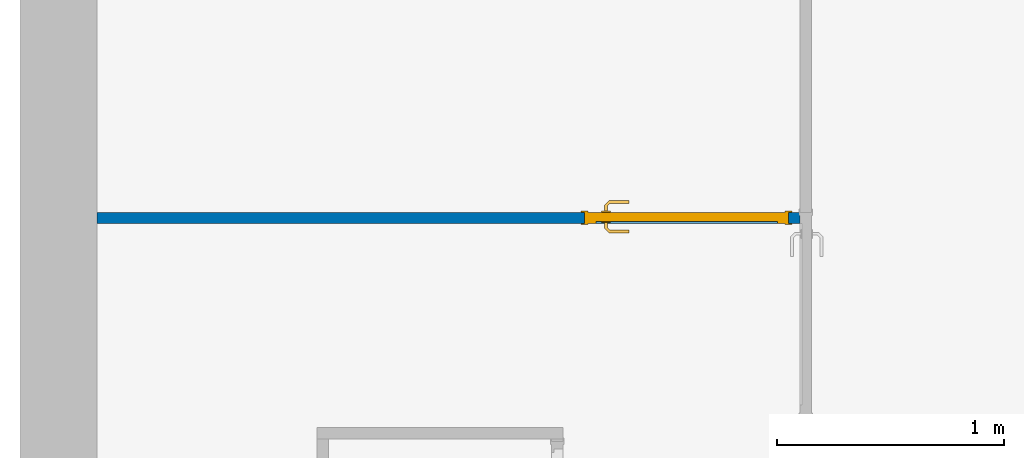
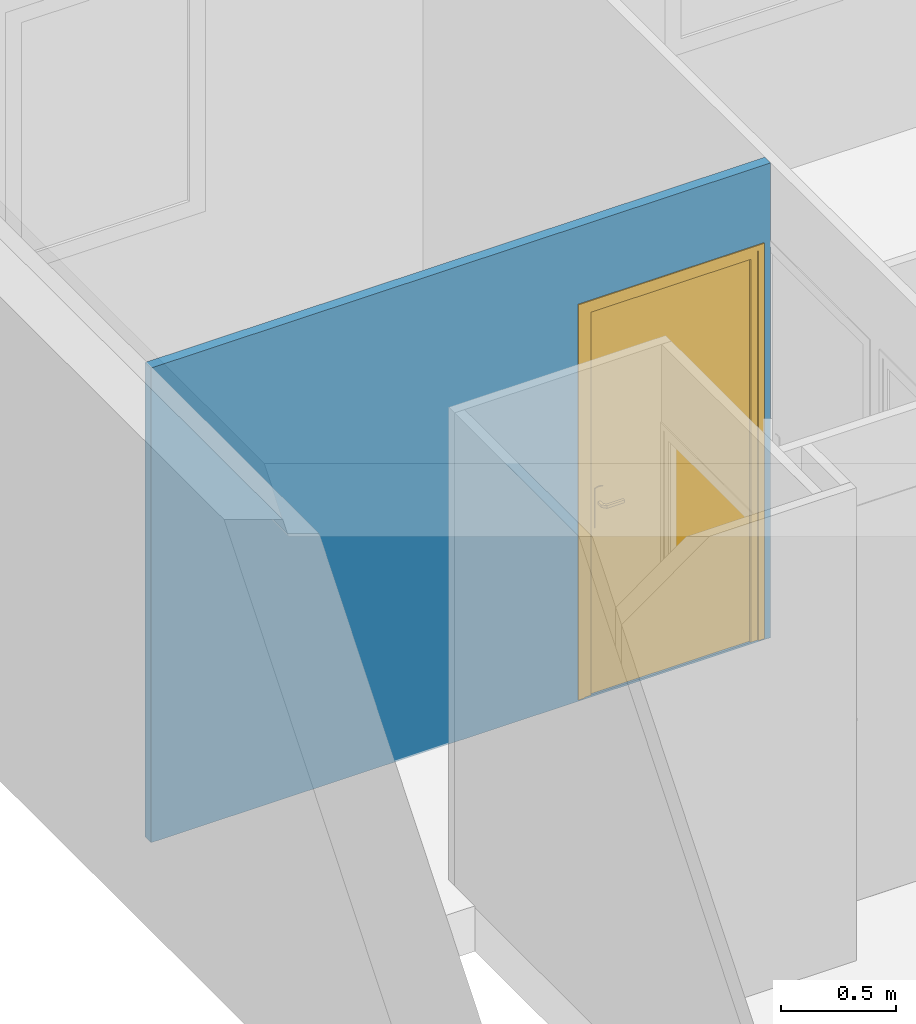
# One storey, part 4 of 13: 1 door, 1 wall, 1 opening.
"""IFC2X3 building model written with IfcOpenShell, lengths in metres."""

import ifcopenshell
import ifcopenshell.guid

model = None  # the IFC model being written
_history = None  # IfcOwnerHistory: only IFC2X3 demands one
_inside = {}  # id of a spatial element -> (the spatial element, [elements in it])
_under = {}  # id of a project, library or spatial element -> (it, [spatial elements below it])
_declared = {}  # id of a project -> (the project, [libraries it declares])
_typed = {}  # id of a type object -> (the type object, [elements of that type])
_made_of = {}  # id of a material, layer set ... -> (it, [elements and type objects made of it])


def new_model(schema):
    """Start an empty IFC model of exactly this schema.

    Asked for "IFC4X3", IfcOpenShell would pick the latest addendum, in which some entities
    have other attributes; the version numbers below select the first issue.
    IFC2X3 requires an IfcOwnerHistory on every rooted entity: one is made here for all.
    """
    global model, _history
    if schema == "IFC4X3":
        model = ifcopenshell.file(schema_version=(4, 3, 0, 0))
    else:
        model = ifcopenshell.file(schema=schema)
    _inside.clear()
    _under.clear()
    _declared.clear()
    _typed.clear()
    _made_of.clear()
    _history = None
    if model.schema == "IFC2X3":
        org = make("IfcOrganization", Name="unknown")
        user = make(
            "IfcPersonAndOrganization",
            ThePerson=make("IfcPerson", FamilyName="unknown"),
            TheOrganization=org,
        )
        app = make(
            "IfcApplication",
            ApplicationDeveloper=org,
            Version="unknown",
            ApplicationFullName="unknown",
            ApplicationIdentifier="unknown",
        )
        _history = make(
            "IfcOwnerHistory",
            OwningUser=user,
            OwningApplication=app,
            ChangeAction="ADDED",
            CreationDate=0,
        )
    return model


def make(cls, **values):
    """One entity of the class cls with the attributes given. An attribute that is None is left unset."""
    return model.create_entity(
        cls, **{name: value for name, value in values.items() if value is not None}
    )


def entity(cls, *values):
    """Any entity or typed value of the class cls, its attributes in the order of the schema. None: left unset."""
    e = model.create_entity(cls)
    for i, value in enumerate(values):
        if value is not None:
            e[i] = value
    return e


def rooted(cls, **values):
    """An entity with a GlobalId (a new one), such as an element, a storey or a relation."""
    return make(cls, GlobalId=ifcopenshell.guid.new(), OwnerHistory=_history, **values)


def si_unit(unit_type, name, prefix=None):
    """IfcSIUnit, for example si_unit("LENGTHUNIT", "METRE", prefix="MILLI")."""
    return make("IfcSIUnit", UnitType=unit_type, Prefix=prefix, Name=name)


def converted_unit(unit_type, name, factor, base, dimensions=None, offset=None):
    """IfcConversionBasedUnit, such as the inch: factor (a typed value) times the base unit."""
    return make(
        "IfcConversionBasedUnit"
        if offset is None
        else "IfcConversionBasedUnitWithOffset",
        ConversionOffset=offset,
        Dimensions=None
        if dimensions is None
        else entity("IfcDimensionalExponents", *dimensions),
        UnitType=unit_type,
        Name=name,
        ConversionFactor=make(
            "IfcMeasureWithUnit", ValueComponent=factor, UnitComponent=base
        ),
    )


def derived_unit(unit_type, elements):
    """IfcDerivedUnit: a product of units, each with its exponent."""
    return make(
        "IfcDerivedUnit",
        Elements=[
            make("IfcDerivedUnitElement", Unit=unit, Exponent=power)
            for unit, power in elements
        ],
        UnitType=unit_type,
    )


def assignment(units):
    """IfcUnitAssignment: the units of a project."""
    return None if units is None else make("IfcUnitAssignment", Units=units)


def point(xyz):
    """IfcCartesianPoint."""
    return None if xyz is None else make("IfcCartesianPoint", Coordinates=xyz)


def direction(xyz):
    """IfcDirection."""
    return None if xyz is None else make("IfcDirection", DirectionRatios=xyz)


def frame(location, z_axis=None, x_axis=None):
    """IfcAxis2Placement3D, a coordinate frame: its origin and axes. An axis left out is left unset."""
    return make(
        "IfcAxis2Placement3D",
        Location=point(location),
        Axis=direction(z_axis),
        RefDirection=direction(x_axis),
    )


def frame_2d(location, x_axis=None):
    """IfcAxis2Placement2D, a coordinate frame in the plane: its origin and x axis."""
    return make(
        "IfcAxis2Placement2D", Location=point(location), RefDirection=direction(x_axis)
    )


def origin():
    """The frame at (0, 0, 0) with its axes left unset."""
    return frame((0.0, 0.0, 0.0))


def place(relative_to, where):
    """IfcLocalPlacement: puts the frame where relative to a parent placement (None: the world)."""
    return make(
        "IfcLocalPlacement", PlacementRelTo=relative_to, RelativePlacement=where
    )


def context(
    kind, dimensions, precision=None, world=None, true_north=None, identifier=None
):
    """IfcGeometricRepresentationContext, for example the 3D "Model" context."""
    return make(
        "IfcGeometricRepresentationContext",
        ContextIdentifier=identifier,
        ContextType=kind,
        CoordinateSpaceDimension=dimensions,
        Precision=precision,
        WorldCoordinateSystem=world,
        TrueNorth=true_north,
    )


def subcontext(parent, identifier, kind, view, scale=None):
    """IfcGeometricRepresentationSubContext, for example "Body" below "Model"."""
    return make(
        "IfcGeometricRepresentationSubContext",
        ContextIdentifier=identifier,
        ContextType=kind,
        ParentContext=parent,
        TargetScale=scale,
        TargetView=view,
    )


def project(units=None, contexts=None):
    """IfcProject with its units and contexts."""
    return rooted(
        "IfcProject",
        Name="project",
        RepresentationContexts=contexts,
        UnitsInContext=assignment(units),
    )


def spatial(cls, under=None, at=None, **own):
    """A site, building, storey or space (cls), placed at a placement, below another one or the project."""
    s = rooted(cls, ObjectPlacement=at, **own)
    if under is not None:
        _under.setdefault(under.id(), (under, []))[1].append(s)
    return s


def profile(cls, at=None, kind="AREA", **sizes):
    """A parametric profile (cls). Its sizes go by their IFC names, for example OverallWidth=200.0."""
    return make(cls, ProfileType=kind, Position=at, **sizes)


def rectangle(**sizes):
    """IfcRectangleProfileDef."""
    return profile("IfcRectangleProfileDef", **sizes)


def extrude(swept, where, along, depth):
    """IfcExtrudedAreaSolid: the profile swept, set in the frame where, extruded along a direction by depth."""
    return make(
        "IfcExtrudedAreaSolid",
        SweptArea=swept,
        Position=where,
        ExtrudedDirection=direction(along),
        Depth=depth,
    )


def faces_of(points, faces, orient=None, outer=None):
    """IfcFace entities. A face is a list of loops; a loop is a list of indices into points, from 0.

    orient and outer hold one flag for each loop. By default every Orientation is true, the
    first loop of a face is its IfcFaceOuterBound and the others are IfcFaceBound.
    """
    made = []
    for i, loops in enumerate(faces):
        bounds = []
        for j, loop in enumerate(loops):
            is_outer = j == 0 if outer is None else outer[i][j]
            bounds.append(
                make(
                    "IfcFaceOuterBound" if is_outer else "IfcFaceBound",
                    Bound=make("IfcPolyLoop", Polygon=[points[k] for k in loop]),
                    Orientation=True if orient is None else orient[i][j],
                )
            )
        made.append(make("IfcFace", Bounds=bounds))
    return made


def faceted_brep(points, faces, orient=None, outer=None, voids=None):
    """IfcFacetedBrep: a solid bounded by flat faces; with voids (closed shells), ...WithVoids."""
    shared = [point(p) for p in points]
    hull = make("IfcClosedShell", CfsFaces=faces_of(shared, faces, orient, outer))
    if voids is None:
        return make("IfcFacetedBrep", Outer=hull)
    return make(
        "IfcFacetedBrepWithVoids",
        Outer=hull,
        Voids=[
            make(cls, CfsFaces=faces_of(shared, fs, o, b)) for cls, fs, o, b in voids
        ],
    )


def shape(context_of_items, identifier, shape_type, items):
    """IfcShapeRepresentation: the items that make up one representation, for example the "Body"."""
    return make(
        "IfcShapeRepresentation",
        ContextOfItems=context_of_items,
        RepresentationIdentifier=identifier,
        RepresentationType=shape_type,
        Items=items,
    )


def source(mapping_origin, context_of_items, identifier, shape_type, items):
    """IfcRepresentationMap: a shape defined once, which mapped items show again and again."""
    return make(
        "IfcRepresentationMap",
        MappingOrigin=mapping_origin,
        MappedRepresentation=shape(context_of_items, identifier, shape_type, items),
    )


def transform(
    local_origin,
    x_axis=None,
    y_axis=None,
    z_axis=None,
    scale=None,
    scale2=None,
    scale3=None,
    uniform=True,
):
    """IfcCartesianTransformationOperator3D, or its non-uniform kind. x_axis, y_axis, z_axis: its Axis1, 2, 3."""
    if uniform:
        return make(
            "IfcCartesianTransformationOperator3D",
            Axis1=direction(x_axis),
            Axis2=direction(y_axis),
            LocalOrigin=point(local_origin),
            Scale=scale,
            Axis3=direction(z_axis),
        )
    return make(
        "IfcCartesianTransformationOperator3DnonUniform",
        Axis1=direction(x_axis),
        Axis2=direction(y_axis),
        LocalOrigin=point(local_origin),
        Scale=scale,
        Axis3=direction(z_axis),
        Scale2=scale2,
        Scale3=scale3,
    )


def mapped(mapping_source, mapping_target):
    """IfcMappedItem: shows the shape of a source again, moved by a transform."""
    return make(
        "IfcMappedItem", MappingSource=mapping_source, MappingTarget=mapping_target
    )


def material(Name=None, Category=None):
    """IfcMaterial."""
    return make("IfcMaterial", Name=Name, Category=Category)


def material_list(materials):
    """IfcMaterialList."""
    return make("IfcMaterialList", Materials=materials)


def layer(
    of_material, thickness, ventilated=None, Name=None, Category=None, Priority=None
):
    """IfcMaterialLayer: one layer of a wall or slab, of a material (None: an air gap)."""
    return make(
        "IfcMaterialLayer",
        Material=of_material,
        LayerThickness=thickness,
        IsVentilated=ventilated,
        Name=Name,
        Category=Category,
        Priority=Priority,
    )


def layer_set(layers, Name=None):
    """IfcMaterialLayerSet."""
    return make("IfcMaterialLayerSet", MaterialLayers=layers, LayerSetName=Name)


def layer_usage(for_layer_set, set_direction, sense, offset, extent=None):
    """IfcMaterialLayerSetUsage: how a layer set lies in its element."""
    return make(
        "IfcMaterialLayerSetUsage",
        ForLayerSet=for_layer_set,
        LayerSetDirection=set_direction,
        DirectionSense=sense,
        OffsetFromReferenceLine=offset,
        ReferenceExtent=extent,
    )


def made_of(thing, what):
    """Note that an element or type object is made of a material, layer set ...; save() writes the relation."""
    if what is not None:
        _made_of.setdefault(what.id(), (what, []))[1].append(thing)
    return thing


def type_object(cls, material=None, **own):
    """A type object (cls), such as IfcWallType, which elements share."""
    return made_of(rooted(cls, **own), material)


def type_shapes(of_type, sources):
    """Give a type object the sources (RepresentationMaps) that its elements show as mapped items."""
    of_type.RepresentationMaps = sources


def element(
    cls,
    number,
    at=None,
    inside=None,
    cuts=None,
    type_object=None,
    material=None,
    context=None,
    identifier="Body",
    shape_type=None,
    held_by="IfcProductDefinitionShape",
    body=None,
    shapes=None,
    **own,
):
    """One element of the class cls, such as IfcWall. Its Tag is "e" and its number.

    at: its placement. inside: the storey or other place that contains it. cuts: it is an
    opening in that element (IfcRelVoidsElement). A single representation is given by context,
    identifier, shape_type and body (its items); several are given by shapes. held_by: the class
    of the entity that holds the representations. save() writes the other relations.
    """
    e = rooted(cls, Tag="e%d" % number, ObjectPlacement=at, **own)
    if body is not None:
        shapes = [shape(context, identifier, shape_type, body)]
    if shapes is not None:
        e.Representation = make(held_by, Representations=shapes)
    if inside is not None:
        _inside.setdefault(inside.id(), (inside, []))[1].append(e)
    if cuts is not None:
        rooted(
            "IfcRelVoidsElement", RelatingBuildingElement=cuts, RelatedOpeningElement=e
        )
    if type_object is not None:
        _typed.setdefault(type_object.id(), (type_object, []))[1].append(e)
    return made_of(e, material)


def fill(opening, filler):
    """IfcRelFillsElement: the door or window that sits in an opening."""
    return rooted(
        "IfcRelFillsElement",
        RelatingOpeningElement=opening,
        RelatedBuildingElement=filler,
    )


def aggregate(whole, parts):
    """IfcRelAggregates: a whole, such as a stair, and the parts it consists of."""
    return rooted("IfcRelAggregates", RelatingObject=whole, RelatedObjects=parts)


def save(model, path):
    """Write the relations noted so far, then the file.

    IfcRelAggregates (storeys below a building ...), IfcRelContainedInSpatialStructure (elements
    in a storey), IfcRelDefinesByType, IfcRelAssociatesMaterial and IfcRelDeclares: one each for
    every whole, place, type object, material and project.
    """
    for whole, parts in _under.values():
        aggregate(whole, parts)
    for where, things in _inside.values():
        rooted(
            "IfcRelContainedInSpatialStructure",
            RelatedElements=things,
            RelatingStructure=where,
        )
    for kind, things in _typed.values():
        rooted("IfcRelDefinesByType", RelatedObjects=things, RelatingType=kind)
    for what, things in _made_of.values():
        rooted("IfcRelAssociatesMaterial", RelatedObjects=things, RelatingMaterial=what)
    for by, libraries in _declared.values():
        rooted("IfcRelDeclares", RelatingContext=by, RelatedDefinitions=libraries)
    model.write(path)


model = new_model("IFC2X3")

# Units and contexts
model_context = context("Model", 3, precision=1e-05, world=origin(), true_north=direction((6.12303176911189e-17, 1.0)))
body_context = subcontext(model_context, "Body", "Model", "MODEL_VIEW")
ifc_project = project(units=[si_unit("LENGTHUNIT", "METRE"), si_unit("AREAUNIT", "SQUARE_METRE"), si_unit("VOLUMEUNIT", "CUBIC_METRE"), converted_unit("PLANEANGLEUNIT", "DEGREE", entity("IfcRatioMeasure", 0.0174532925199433), si_unit("PLANEANGLEUNIT", "RADIAN"), dimensions=[0, 0, 0, 0, 0, 0, 0]), si_unit("MASSUNIT", "GRAM", prefix="KILO"), si_unit("TIMEUNIT", "SECOND"), si_unit("FREQUENCYUNIT", "HERTZ"), si_unit("THERMODYNAMICTEMPERATUREUNIT", "DEGREE_CELSIUS"), derived_unit("THERMALTRANSMITTANCEUNIT", [(si_unit("MASSUNIT", "GRAM", prefix="KILO"), 1), (si_unit("THERMODYNAMICTEMPERATUREUNIT", "KELVIN"), -1), (si_unit("TIMEUNIT", "SECOND"), -3)]), derived_unit("VOLUMETRICFLOWRATEUNIT", [(si_unit("LENGTHUNIT", "METRE"), 3), (si_unit("TIMEUNIT", "SECOND"), -1)]), si_unit("ELECTRICCURRENTUNIT", "AMPERE"), si_unit("ELECTRICVOLTAGEUNIT", "VOLT"), si_unit("POWERUNIT", "WATT"), si_unit("FORCEUNIT", "NEWTON", prefix="KILO"), si_unit("ILLUMINANCEUNIT", "LUX"), si_unit("LUMINOUSFLUXUNIT", "LUMEN"), si_unit("LUMINOUSINTENSITYUNIT", "CANDELA"), derived_unit("USERDEFINED", [(si_unit("MASSUNIT", "GRAM", prefix="KILO"), -1), (si_unit("LENGTHUNIT", "METRE"), -2), (si_unit("TIMEUNIT", "SECOND"), 3), (si_unit("LUMINOUSFLUXUNIT", "LUMEN"), 1)]), derived_unit("LINEARVELOCITYUNIT", [(si_unit("LENGTHUNIT", "METRE"), 1), (si_unit("TIMEUNIT", "SECOND"), -1)]), si_unit("PRESSUREUNIT", "PASCAL"), derived_unit("USERDEFINED", [(si_unit("LENGTHUNIT", "METRE"), -2), (si_unit("MASSUNIT", "GRAM", prefix="KILO"), 1), (si_unit("TIMEUNIT", "SECOND"), -2)])], contexts=[model_context])

# Site, building, storey
site_placement = place(None, origin())
site = spatial("IfcSite", under=ifc_project, at=site_placement, Name="Surface", CompositionType="ELEMENT")
building_placement = place(site_placement, origin())
building = spatial("IfcBuilding", under=site, at=building_placement, CompositionType="ELEMENT")
storey_placement = place(building_placement, frame((0.0, 0.0, 2.74)))
storey = spatial("IfcBuildingStorey", under=building, at=storey_placement, Name="Plan étage", CompositionType="ELEMENT", Elevation=2.74)

# Wall, opening, door
ifc_material_1 = material(Name="Maçonnerie - Isolant(1)")
ifc_layer = layer(ifc_material_1, 0.05)
ifc_layer_set = layer_set([ifc_layer], Name="Mur de base:Int. plâtre 50 mm")
ifc_layer_usage = layer_usage(ifc_layer_set, "AXIS2", "NEGATIVE", 0.025)
wall_type = type_object("IfcWallType", Name="Mur de base:Int. plâtre 50 mm", PredefinedType="STANDARD", material=ifc_layer_set)
wall_placement = place(storey_placement, frame((-11.2960888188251, 2.35925578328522, -0.00999999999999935)))
wall = element("IfcWallStandardCase", 1, at=wall_placement, inside=storey, type_object=wall_type, material=ifc_layer_usage, Name="Mur de base:Int. plâtre 50 mm", ObjectType="Mur de base:Int. plâtre 50 mm", context=body_context, shape_type="SweptSolid", body=[
    extrude(rectangle(XDim=3.09999999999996, YDim=0.05, at=frame_2d((1.54999999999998, 0.0), x_axis=(-1.0, 0.0))), origin(), (0.0, 0.0, 1.0), 2.51),
])
opening_placement = place(wall_placement, frame((2.15, -0.025, 0.00999999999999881)))
opening = element("IfcOpeningElement", 2, at=opening_placement, cuts=wall, Name="Int. Simple:PP (0.83m x 2.04m):1", ObjectType="Opening", context=body_context, shape_type="SweptSolid", body=[
    extrude(rectangle(XDim=2.075, YDim=0.9, at=frame_2d((1.0375, 0.45), x_axis=(1.0, 0.0))), frame((0.0, 0.0, 0.0), z_axis=(0.0, 1.0, 0.0), x_axis=(0.0, 0.0, 1.0)), (0.0, 0.0, 1.0), 0.05),
])
ifc_material_2 = material(Name="Finition Peinture - Blanc satiné")
ifc_material_3 = material(Name="Bois - Panneau de porte")
ifc_material_4 = material(Name="Bois - Cadre de porte")
ifc_material_list_1 = material_list([ifc_material_2, ifc_material_3, ifc_material_4])
ifc_material_list_2 = material_list([ifc_material_2, ifc_material_3, ifc_material_4])
door_style = type_object("IfcDoorStyle", Name="PP (0.83m x 2.04m)", ConstructionType="NOTDEFINED", OperationType="SINGLE_SWING_RIGHT", ParameterTakesPrecedence=False, Sizeable=False, material=ifc_material_list_2)
shared_shape = source(origin(), body_context, "Body", "Brep", [
    faceted_brep([(0.895000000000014, -0.00500000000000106, 0.870000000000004), (0.895000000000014, -0.00500000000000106, 1.08), (0.885352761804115, -0.00500000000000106, 1.08399601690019), (0.875000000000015, -0.00500000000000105, 1.08535898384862), (0.864647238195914, -0.00500000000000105, 1.08399601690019), (0.855000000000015, -0.00500000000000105, 1.08), (0.855000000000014, -0.00500000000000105, 0.870000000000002), (0.864647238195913, -0.00500000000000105, 0.866003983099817), (0.875000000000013, -0.00500000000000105, 0.86464101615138), (0.885352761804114, -0.00500000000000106, 0.866003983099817), (0.895000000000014, 0.0, 1.08), (0.895000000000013, 0.0, 0.870000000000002), (0.885352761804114, 0.0, 0.866003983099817), (0.875000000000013, 0.0, 0.86464101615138), (0.864647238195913, 0.0, 0.866003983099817), (0.855000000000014, 0.0, 0.870000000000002), (0.855000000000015, 0.0, 1.08), (0.864647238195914, 0.0, 1.08399601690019), (0.875000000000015, 0.0, 1.08535898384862), (0.885352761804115, 0.0, 1.08399601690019)], [[[0, 1, 2, 3, 4, 5, 6, 7, 8, 9]], [[10, 11, 12, 13, 14, 15, 16, 17, 18, 19]], [[9, 12, 11, 0]], [[8, 13, 12, 9]], [[7, 14, 13, 8]], [[7, 6, 15, 14]], [[15, 6, 5, 16]], [[4, 17, 16, 5]], [[3, 18, 17, 4]], [[2, 19, 18, 3]], [[2, 1, 10, 19]], [[11, 10, 1, 0]]]),
    faceted_brep([(0.895000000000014, 0.0399999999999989, 0.870000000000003), (0.895000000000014, 0.0399999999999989, 1.08), (0.885352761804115, 0.0399999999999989, 1.08399601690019), (0.875000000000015, 0.0399999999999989, 1.08535898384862), (0.864647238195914, 0.0399999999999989, 1.08399601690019), (0.855000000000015, 0.0399999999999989, 1.08), (0.855000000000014, 0.0399999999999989, 0.870000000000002), (0.864647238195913, 0.0399999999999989, 0.866003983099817), (0.875000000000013, 0.0399999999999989, 0.86464101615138), (0.885352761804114, 0.0399999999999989, 0.866003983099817), (0.875000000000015, 0.0449999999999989, 1.08535898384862), (0.885352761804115, 0.0449999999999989, 1.08399601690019), (0.895000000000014, 0.0449999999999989, 1.08), (0.895000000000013, 0.0449999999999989, 0.870000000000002), (0.885352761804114, 0.0449999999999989, 0.866003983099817), (0.875000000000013, 0.0449999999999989, 0.86464101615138), (0.864647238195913, 0.0449999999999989, 0.866003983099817), (0.855000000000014, 0.0449999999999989, 0.870000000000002), (0.855000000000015, 0.0449999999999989, 1.08), (0.864647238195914, 0.0449999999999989, 1.08399601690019)], [[[0, 1, 2, 3, 4, 5, 6, 7, 8, 9]], [[10, 11, 12, 13, 14, 15, 16, 17, 18, 19]], [[4, 19, 18, 5]], [[3, 10, 19, 4]], [[2, 11, 10, 3]], [[2, 1, 12, 11]], [[13, 12, 1, 0]], [[9, 14, 13, 0]], [[8, 15, 14, 9]], [[7, 16, 15, 8]], [[7, 6, 17, 16]], [[17, 6, 5, 18]]]),
    faceted_brep([(0.872974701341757, -0.0050000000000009, 1.00778044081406), (0.877025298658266, -0.00500000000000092, 1.00778044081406), (0.881000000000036, -0.00500000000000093, 1.00699999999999), (0.881000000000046, -0.00500000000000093, 0.992999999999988), (0.877025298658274, -0.00500000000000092, 0.99221955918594), (0.872974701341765, -0.0050000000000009, 0.992219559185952), (0.868999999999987, -0.00500000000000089, 0.993000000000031), (0.868999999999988, -0.00500000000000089, 1.007), (0.877025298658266, -0.0310045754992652, 1.00778044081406), (0.881000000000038, -0.0326509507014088, 1.007), (0.872974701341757, -0.0293267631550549, 1.00778044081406), (0.859298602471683, -0.0430028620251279, 1.00778044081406), (0.860976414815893, -0.0470534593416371, 1.00778044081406), (0.868999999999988, -0.0276803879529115, 1.007), (0.868999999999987, -0.0276803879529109, 0.993000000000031), (0.872974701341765, -0.0293267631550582, 0.992219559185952), (0.877025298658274, -0.0310045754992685, 0.99221955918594), (0.860976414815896, -0.047053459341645, 0.99221955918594), (0.859298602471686, -0.0430028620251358, 0.992219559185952), (0.881000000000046, -0.0326509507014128, 0.992999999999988), (0.862622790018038, -0.0510281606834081, 1.007), (0.85765222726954, -0.0390281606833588, 1.007), (0.857652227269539, -0.0390281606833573, 0.993000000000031), (0.862622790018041, -0.0510281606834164, 0.992999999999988), (0.774981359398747, -0.0510281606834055, 1.007), (0.774981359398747, -0.0470534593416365, 1.00778044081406), (0.774981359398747, -0.0430028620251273, 1.00778044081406), (0.774981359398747, -0.0390281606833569, 1.00699999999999), (0.774981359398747, -0.0390281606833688, 0.993000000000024), (0.774981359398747, -0.0430028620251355, 0.992219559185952), (0.774981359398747, -0.0470534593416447, 0.99221955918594), (0.774981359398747, -0.0510281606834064, 0.992999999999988), (0.81713998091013, -0.045028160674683, 1.0078786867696), (0.822692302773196, -0.051028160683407, 1.007), (0.816316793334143, -0.039028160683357, 1.007), (0.816316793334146, -0.0390281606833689, 0.993000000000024), (0.817139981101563, -0.0450281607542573, 0.992121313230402), (0.822692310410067, -0.0510281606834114, 0.992999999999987)], [[[0, 1, 2, 3, 4, 5, 6, 7]], [[2, 1, 8, 9]], [[1, 0, 10, 11, 12, 8]], [[0, 7, 13, 10]], [[14, 13, 7, 6]], [[5, 15, 14, 6]], [[5, 4, 16, 17, 18, 15]], [[3, 19, 16, 4]], [[9, 19, 3, 2]], [[9, 8, 12, 20]], [[10, 13, 21, 11]], [[22, 21, 13, 14]], [[14, 15, 18, 22]], [[16, 19, 23, 17]], [[20, 23, 19, 9]], [[24, 25, 26, 27, 28, 29, 30, 31]], [[32, 25, 33]], [[33, 25, 24]], [[33, 20, 12]], [[11, 34, 32]], [[34, 11, 21]], [[27, 26, 34]], [[32, 26, 25]], [[32, 34, 26]], [[32, 33, 12]], [[11, 32, 12]], [[21, 22, 35, 28, 27, 34]], [[36, 29, 35]], [[30, 36, 37]], [[18, 35, 22]], [[29, 28, 35]], [[30, 37, 31]], [[37, 17, 23]], [[36, 17, 37]], [[36, 18, 17]], [[36, 35, 18]], [[29, 36, 30]], [[23, 20, 33, 24, 31, 37]]]),
    faceted_brep([(0.872974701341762, 0.0449999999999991, 0.992219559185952), (0.877025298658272, 0.0449999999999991, 0.99221955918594), (0.881000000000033, 0.044999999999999, 0.992999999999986), (0.881000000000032, 0.044999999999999, 1.007), (0.877025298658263, 0.0449999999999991, 1.00778044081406), (0.872974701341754, 0.0449999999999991, 1.00778044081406), (0.868999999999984, 0.0449999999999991, 1.007), (0.868999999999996, 0.0449999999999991, 0.993000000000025), (0.868999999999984, 0.067485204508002, 1.007), (0.868999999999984, 0.0674852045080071, 0.993000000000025), (0.872974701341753, 0.0691315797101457, 1.00778044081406), (0.877025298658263, 0.070809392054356, 1.00778044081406), (0.860838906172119, 0.0869957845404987, 1.00778044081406), (0.859161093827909, 0.0829451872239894, 1.00778044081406), (0.881000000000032, 0.0724557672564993, 1.007), (0.881000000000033, 0.0724557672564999, 0.992999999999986), (0.877025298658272, 0.0708093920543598, 0.99221955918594), (0.872974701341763, 0.0691315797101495, 0.992219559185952), (0.859161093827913, 0.0829451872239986, 0.992219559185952), (0.860838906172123, 0.0869957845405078, 0.99221955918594), (0.857514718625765, 0.0789704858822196, 1.007), (0.857514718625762, 0.0789704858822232, 0.993000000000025), (0.862485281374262, 0.0909704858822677, 1.007), (0.862485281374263, 0.0909704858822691, 0.992999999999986), (0.77495421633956, 0.0829451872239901, 1.00778044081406), (0.77495421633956, 0.0869957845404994, 1.00778044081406), (0.77495421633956, 0.0909704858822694, 1.007), (0.77495421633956, 0.0909704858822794, 0.992999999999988), (0.77495421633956, 0.086995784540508, 0.99221955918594), (0.77495421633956, 0.0829451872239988, 0.992219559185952), (0.77495421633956, 0.0789704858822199, 0.993000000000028), (0.77495421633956, 0.0789704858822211, 1.007), (0.816234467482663, 0.0789704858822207, 1.007), (0.816234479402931, 0.0789704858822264, 0.993000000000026), (0.817057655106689, 0.0849704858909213, 1.0078786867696), (0.822554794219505, 0.0909704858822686, 1.007), (0.822554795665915, 0.0909704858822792, 0.992999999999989), (0.817057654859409, 0.0849704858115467, 0.992121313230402)], [[[0, 1, 2, 3, 4, 5, 6, 7]], [[8, 9, 7, 6]], [[5, 10, 8, 6]], [[5, 4, 11, 12, 13, 10]], [[3, 14, 11, 4]], [[14, 3, 2, 15]], [[2, 1, 16, 15]], [[1, 0, 17, 18, 19, 16]], [[0, 7, 9, 17]], [[20, 21, 9, 8]], [[8, 10, 13, 20]], [[14, 22, 12, 11]], [[23, 22, 14, 15]], [[15, 16, 19, 23]], [[17, 9, 21, 18]], [[24, 25, 26, 27, 28, 29, 30, 31]], [[21, 20, 32, 31, 30, 33]], [[34, 24, 32]], [[25, 34, 35]], [[13, 32, 20]], [[24, 31, 32]], [[25, 35, 26]], [[35, 12, 22]], [[34, 12, 35]], [[34, 13, 12]], [[34, 32, 13]], [[24, 34, 25]], [[22, 23, 36, 27, 26, 35]], [[37, 28, 36]], [[36, 28, 27]], [[36, 23, 19]], [[18, 33, 37]], [[33, 18, 21]], [[30, 29, 33]], [[37, 29, 28]], [[37, 33, 29]], [[37, 36, 19]], [[18, 37, 19]]]),
    faceted_brep([(0.935000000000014, 0.04, 2.04), (0.935000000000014, 0.04, 0.0), (0.105000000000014, 0.04, 0.0), (0.105000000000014, 0.04, 2.04), (0.935000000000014, 0.0, 2.04), (0.105000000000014, 0.0, 2.04), (0.105000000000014, 0.0, 0.0), (0.935000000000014, 0.0, 0.0)], [[[0, 1, 2, 3]], [[4, 5, 6, 7]], [[3, 5, 4, 0]], [[2, 6, 5, 3]], [[1, 7, 6, 2]], [[0, 4, 7, 1]]]),
    faceted_brep([(0.970000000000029, 0.0, 0.0), (0.935000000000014, 0.0, 0.0), (0.935000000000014, 0.040000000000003, 0.0), (0.920000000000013, 0.040000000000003, 0.0), (0.920000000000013, 0.050000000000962, 0.0), (0.970000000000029, 0.050000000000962, 0.0), (0.970000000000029, 0.050000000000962, 2.07500000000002), (0.970000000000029, 0.0, 2.07500000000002), (0.920000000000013, 0.050000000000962, 2.025), (0.120000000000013, 0.050000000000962, 2.025), (0.120000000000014, 0.050000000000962, 0.0), (0.0699999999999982, 0.050000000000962, 0.0), (0.0699999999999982, 0.050000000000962, 2.07500000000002), (0.920000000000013, 0.040000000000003, 2.025), (0.935000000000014, 0.040000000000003, 2.04), (0.105000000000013, 0.040000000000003, 2.04), (0.105000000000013, 0.040000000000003, 0.0), (0.120000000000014, 0.040000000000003, 0.0), (0.120000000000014, 0.040000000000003, 2.025), (0.935000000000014, 0.0, 2.04), (0.069999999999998, 0.0, 2.07500000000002), (0.0699999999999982, 0.0, 0.0), (0.105000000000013, 0.0, 0.0), (0.105000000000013, 0.0, 2.04)], [[[0, 1, 2, 3, 4, 5]], [[5, 6, 7, 0]], [[4, 8, 9, 10, 11, 12, 6, 5]], [[3, 13, 8, 4]], [[2, 14, 15, 16, 17, 18, 13, 3]], [[1, 19, 14, 2]], [[0, 7, 20, 21, 22, 23, 19, 1]], [[12, 11, 21, 20]], [[21, 11, 10, 17, 16, 22]], [[18, 17, 10, 9]], [[23, 22, 16, 15]], [[6, 12, 20, 7]], [[13, 18, 9, 8]], [[19, 23, 15, 14]]]),
    faceted_brep([(0.955000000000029, 0.050000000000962, 0.0), (0.955000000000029, 0.055000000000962, 0.0), (0.985000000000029, 0.055000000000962, 0.0), (0.985000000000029, 0.050000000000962, 0.0), (0.985000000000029, 0.050000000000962, 2.09000000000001), (0.0550000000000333, 0.050000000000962, 2.09000000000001), (0.0550000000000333, 0.050000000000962, 0.0), (0.0850000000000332, 0.050000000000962, 0.0), (0.0850000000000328, 0.050000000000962, 2.06000000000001), (0.955000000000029, 0.050000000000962, 2.06000000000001), (0.985000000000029, 0.055000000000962, 2.09000000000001), (0.955000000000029, 0.055000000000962, 2.06000000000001), (0.0850000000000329, 0.055000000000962, 2.06000000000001), (0.0850000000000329, 0.055000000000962, 0.0), (0.055000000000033, 0.055000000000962, 0.0), (0.0550000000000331, 0.055000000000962, 2.09000000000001)], [[[0, 1, 2, 3]], [[3, 4, 5, 6, 7, 8, 9, 0]], [[2, 10, 4, 3]], [[1, 11, 12, 13, 14, 15, 10, 2]], [[0, 9, 11, 1]], [[7, 6, 14, 13]], [[8, 7, 13, 12]], [[15, 14, 6, 5]], [[10, 15, 5, 4]], [[9, 8, 12, 11]]]),
    faceted_brep([(0.985000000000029, -0.005, 0.0), (0.985000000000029, -0.005, 2.09000000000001), (0.0550000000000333, -0.005, 2.09000000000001), (0.0550000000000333, -0.005, 0.0), (0.0850000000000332, -0.005, 0.0), (0.0850000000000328, -0.005, 2.06000000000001), (0.955000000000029, -0.005, 2.06000000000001), (0.955000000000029, -0.005, 0.0), (0.985000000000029, 0.0, 0.0), (0.985000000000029, 0.0, 2.09000000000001), (0.955000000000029, 0.0, 0.0), (0.955000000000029, 0.0, 2.06000000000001), (0.0850000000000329, 0.0, 2.06000000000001), (0.0850000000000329, 0.0, 0.0), (0.055000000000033, 0.0, 0.0), (0.0550000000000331, 0.0, 2.09000000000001)], [[[0, 1, 2, 3, 4, 5, 6, 7]], [[8, 9, 1, 0]], [[10, 11, 12, 13, 14, 15, 9, 8]], [[7, 6, 11, 10]], [[5, 4, 13, 12]], [[15, 14, 3, 2]], [[9, 15, 2, 1]], [[6, 5, 12, 11]], [[4, 3, 14, 13]], [[7, 10, 8, 0]]]),
])
type_shapes(door_style, [shared_shape])
door_placement = place(opening_placement, frame((0.970000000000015, 0.0500000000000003, 0.0), z_axis=(0.0, 0.0, 1.0), x_axis=(-1.0, 0.0, 0.0)))
door = element("IfcDoor", 3, at=door_placement, inside=storey, type_object=door_style, material=ifc_material_list_1, Name="Int. Simple:PP (0.83m x 2.04m)", ObjectType="PP (0.83m x 2.04m)", OverallHeight=2.075, OverallWidth=0.9, context=body_context, shape_type="MappedRepresentation", body=[
    mapped(shared_shape, transform((0.0, 0.0, 0.0), scale=1.0)),
])
fill(opening, door)

save(model, "model.ifc")
